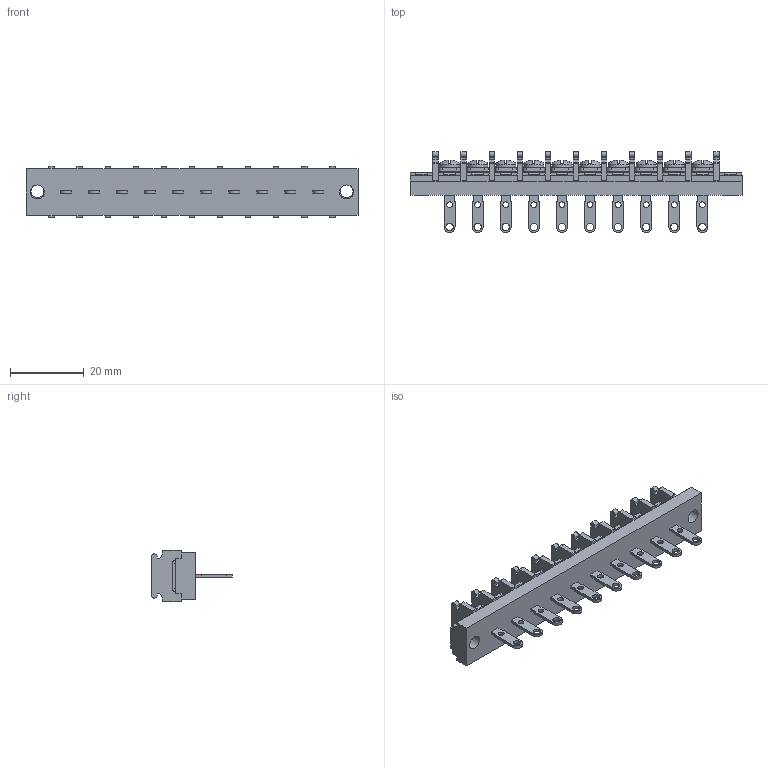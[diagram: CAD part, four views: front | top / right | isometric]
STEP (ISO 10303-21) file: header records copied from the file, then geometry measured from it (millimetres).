
FILE_DESCRIPTION(/* description */ ('Alibre Inc.'),/* implementation_level */ '2;1');
FILE_NAME(/* name */ 'export0',/* time_stamp */ '2015-10-26T16:42:02+09:00',/* author */ (''),/* organization */ (''),/* preprocessor_version */ 'ST-DEVELOPER v14',/* originating_system */ 'Alibre',/* authorisation */ '');
FILE_SCHEMA (('CONFIG_CONTROL_DESIGN'));
Length unit declared in the file: centimetre
Products named in the file (1): ID_1
Bounding box: 90.02 x 21.9 x 14 mm (x, y, z)
Volume: 8233.2 mm3; surface area: 8189 mm2
Topology: 1 solids, 17 shells, 1632 faces, 4460 edges, 2924 vertices
Faces by surface type: plane 1264, cylinder 184, bspline 104, cone 40, torus 20, sphere 20
Full cylindrical faces by diameter (mm): 1.57 x10, 2 x10, 3 x10, 3.5 x2, 3.8 x2, 5.5 x10
Entity records: 48753 total; most frequent: CARTESIAN_POINT 10187, ORIENTED_EDGE 8744, DIRECTION 6224, EDGE_CURVE 4372, VECTOR 3172, LINE 3172, VERTEX_POINT 2900, AXIS2_PLACEMENT_3D 2107
